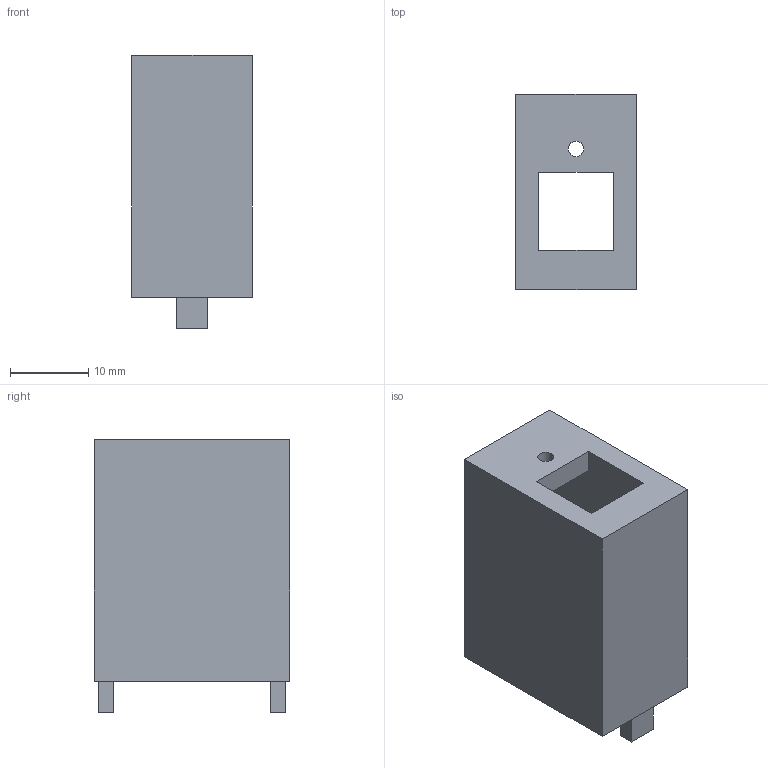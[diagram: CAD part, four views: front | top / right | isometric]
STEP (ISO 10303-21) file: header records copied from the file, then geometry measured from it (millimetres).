
FILE_DESCRIPTION (( 'STEP AP203' ), '1' );
FILE_NAME ('IRextension.STEP', '2016-05-26T15:03:00', ( '' ), ( '' ), 'SwSTEP 2.0', 'SolidWorks 2015', '' );
FILE_SCHEMA (( 'CONFIG_CONTROL_DESIGN' ));
Length unit declared in the file: millimetre
Products named in the file (1): IRextension
Bounding box: 15.5 x 25 x 35 mm (x, y, z)
Volume: 6728.1 mm3; surface area: 4917.6 mm2
Topology: 1 solids, 1 shells, 26 faces, 66 edges, 44 vertices
Faces by surface type: plane 24, cylinder 2
Entity records: 859 total; most frequent: CARTESIAN_POINT 137, ORIENTED_EDGE 132, DIRECTION 124, EDGE_CURVE 66, VECTOR 62, LINE 62, VERTEX_POINT 44, EDGE_LOOP 32
